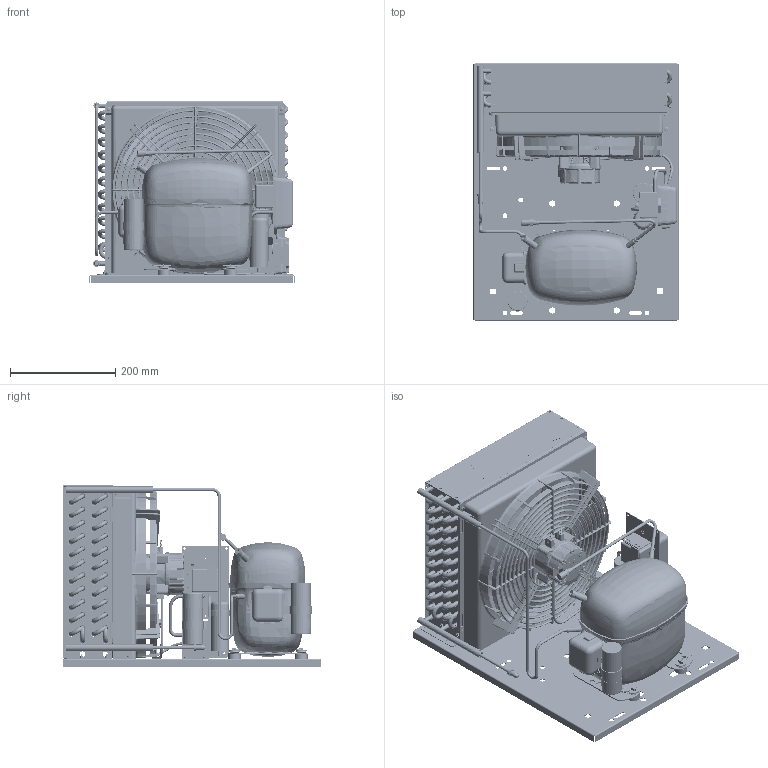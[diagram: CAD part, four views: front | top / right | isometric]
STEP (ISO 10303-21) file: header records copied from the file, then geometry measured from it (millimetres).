
FILE_DESCRIPTION(/* description */ ('Unknown'),/* implementation_level */ '2;1');
FILE_NAME(/* name */ '2298-0007',/* time_stamp */ '2021-12-15T14:59:51+01:00',/* author */ ('Unknown'),/* organization */ ('Unknown'),/* preprocessor_version */ 'ST-DEVELOPER v16.7',/* originating_system */ 'Solid Edge',/* authorisation */ 'Unknown');
FILE_SCHEMA (('AUTOMOTIVE_DESIGN {1 0 10303 214 3 1 1}'));
Products named in the file (50): 2298-0007; 92505124; 1340315f70; r50115706; r50115707; 2990210; r59700361; r50115701; r50095108; r50115604; cg300n; SC21MFX-A-CSR; a300-19; a300-19_costruzione_oa_0; a300-19_costruzione_oa_1; a300-19_costruzione_oa_2; a300-19_costruzione_oa_3; a300-19_costruzione_oa_4; sc18cl-a-csr_Large_el; sc18cl-a-csr_TRM_SRF; sc18cl-a-csr_TRM_SRF_0; sc18cl-a-csr_TRM_SRF_1; sc18cl-a-csr_TRM_SRF_2; sc18cl-a-csr_TRM_SRF_3; sc18cl-a-csr_TRM_SRF_4; sc18cl-a-csr_TRM_SRF_5; sc18cl_a_csr_cavo_01; sc18cl_a_csr_cavo_02; 99540010; 84a4.2x9.5xtbcf01; sc18cl-a-csr_piedino; 84RM10X21XXPIAF00; 84v1.8x35xxcopf00; 670060100; 99540005; 99510248_05; 8351_2; 8392_A; 99510248_tubo_04; 84t4.8x8xxxtcca00_oa_5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
Assembly tree (114 placements, depth 3):
  2298-0007
    92505124
    1340315f70
      r50115706
      r50115707
      2990210  x24
      r59700361  x24
      r50115701
      r50095108
      r50115604  x2
    cg300n
    SC21MFX-A-CSR
    a300-19
      a300-19_costruzione_oa_0
      a300-19_costruzione_oa_1
      a300-19_costruzione_oa_2
      a300-19_costruzione_oa_3
      a300-19_costruzione_oa_4
    sc18cl-a-csr_Large_el
      sc18cl-a-csr_TRM_SRF
      sc18cl-a-csr_TRM_SRF_0
      sc18cl-a-csr_TRM_SRF_1
      sc18cl-a-csr_TRM_SRF_2
      sc18cl-a-csr_TRM_SRF_3
      sc18cl-a-csr_TRM_SRF_4
      sc18cl-a-csr_TRM_SRF_5
      sc18cl_a_csr_cavo_01
      sc18cl_a_csr_cavo_02
    99540010
    84a4.2x9.5xtbcf01  x7
    sc18cl-a-csr_piedino  x4
    84RM10X21XXPIAF00  x4
    84v1.8x35xxcopf00  x4
    670060100
    99540005
    99510248_05
      8351_2
      8392_A
      99510248_tubo_04
    84t4.8x8xxxtcca00_oa_5
    84t4.8x8xxxtcca00_oa_6
    84t4.8x8xxxtcca00_oa_7
    84t4.8x8xxxtcca00_oa_8
    84dm4x3.6xxesrf00  x4
    99000082_secop
    680063704
    62010155
    99000082_SECOP_F-GAS
    2298-0005_CAVO VENTOLA
    9221-0002
Bounding box: 390 x 490 x 345.32 mm (x, y, z)
Volume: 9718171.6 mm3; surface area: 3555598.7 mm2
Topology: 110 solids, 111 shells, 11951 faces, 31101 edges, 19821 vertices
Faces by surface type: plane 5210, cylinder 2457, bspline 1888, torus 1442, cone 834, sphere 120
Full cylindrical faces by diameter (mm): 0.5 x2, 1 x1, 1.8 x20, 2.2 x4, 2.45 x6, 2.7 x4, 3 x5, 3.14 x6, 3.2 x6, 3.242 x4, 3.5 x15, 3.6 x6, 3.66 x4, 3.9 x2, 4 x30, 4.2 x15, 4.205 x11, 4.5 x17, 4.6 x5, 4.7 x4, 4.95 x1, 5 x11, 5.1 x2, 5.5 x9, 5.6 x2, 6 x11, 6.2 x2, 6.5 x6, 6.6 x4, 6.93 x48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
Entity records: 590521 total; most frequent: CARTESIAN_POINT 297369, ORIENTED_EDGE 55992, DIRECTION 40395, EDGE_CURVE 27996, VERTEX_POINT 18506, AXIS2_PLACEMENT_3D 15791, EDGE_LOOP 13734, FACE_BOUND 13734
